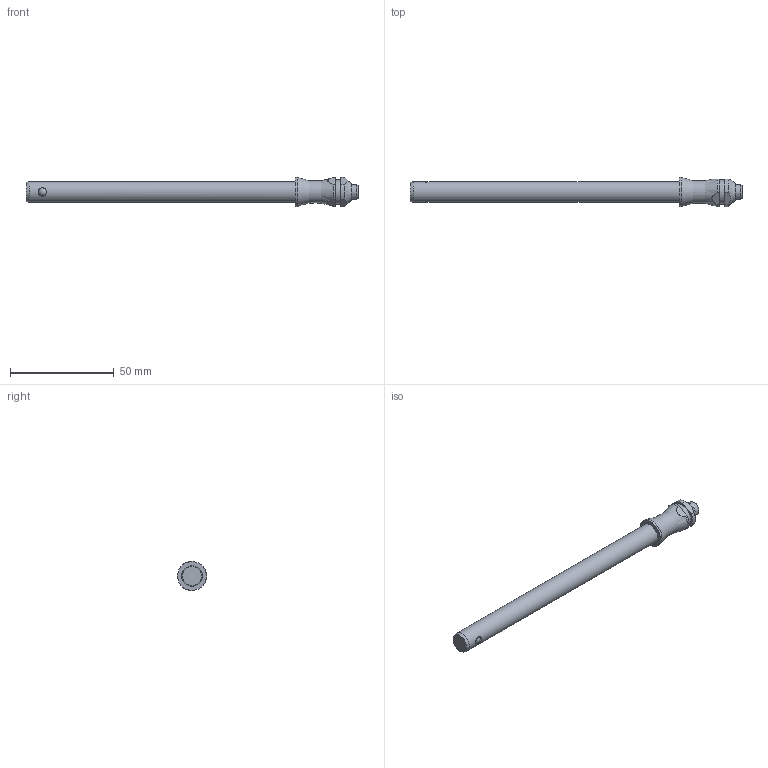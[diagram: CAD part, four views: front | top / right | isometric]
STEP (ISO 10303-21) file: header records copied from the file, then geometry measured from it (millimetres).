
FILE_DESCRIPTION( ( 'STEP AP203' ), '1' );
FILE_NAME( 'C:/Temp/Ganter_Step_05_03_2020/data/3_1/gn113_3/Stainless Steel-Ball lock pin GN 113.3-10-120 (activated).stp', '2020-03-12T08:18:39', ( 'License CC BY-ND 4.0' ), ( 'CADENAS' ), ' ', 'PARTsolutions', ' ' );
FILE_SCHEMA( ( 'CONFIG_CONTROL_DESIGN' ) );
Length unit declared in the file: millimetre
Products named in the file (1): _Stainless Steel-Ball lock pin GN 113.3-10-120 (activated)
Bounding box: 159.75 x 14 x 14 mm (x, y, z)
Volume: 13256.7 mm3; surface area: 5522.5 mm2
Topology: 1 solids, 1 shells, 30 faces, 72 edges, 45 vertices
Faces by surface type: cylinder 12, plane 11, cone 3, torus 2, sphere 2
Full cylindrical faces by diameter (mm): 4 x2, 7 x1, 10 x1, 11.6 x1, 14 x1
Entity records: 988 total; most frequent: CARTESIAN_POINT 341, DIRECTION 130, ORIENTED_EDGE 102, AXIS2_PLACEMENT_3D 56, EDGE_CURVE 51, EDGE_LOOP 46, VERTEX_POINT 39, FACE_OUTER_BOUND 38
